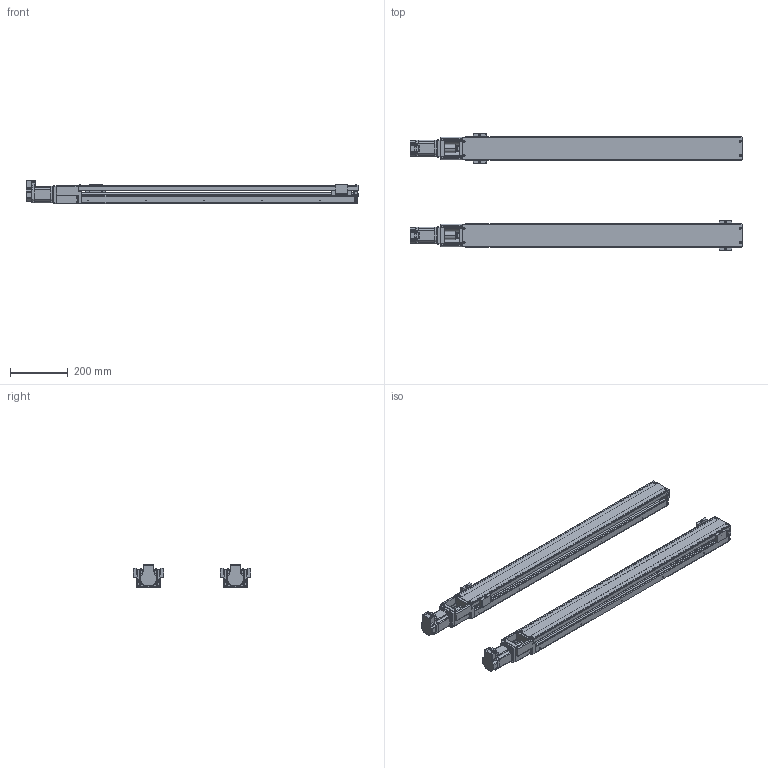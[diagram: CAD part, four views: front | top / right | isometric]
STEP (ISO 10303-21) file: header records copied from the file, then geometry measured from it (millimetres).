
FILE_DESCRIPTION(('STEP AP214'),'1');
FILE_NAME('D:\仕事\図面\SCKR6\tmp0.STEP',' ',(' '),(' '),'XStep 1.0',' ',' ');
FILE_SCHEMA(('automotive_design'));
Length unit declared in the file: millimetre
Bounding box: 1145.01 x 404 x 82.36 mm (x, y, z)
Volume: 5045933.3 mm3; surface area: 1354659.7 mm2
Topology: 116 solids, 116 shells, 4258 faces, 10440 edges, 6418 vertices
Faces by surface type: cylinder 1816, plane 1364, torus 768, bspline 186, cone 92, sphere 32
Entity records: 174387 total; most frequent: CARTESIAN_POINT 33924, DIRECTION 23826, ORIENTED_EDGE 20752, EDGE_CURVE 10376, AXIS2_PLACEMENT_3D 9424, VERTEX_POINT 6418, LINE 4978, VECTOR 4978
